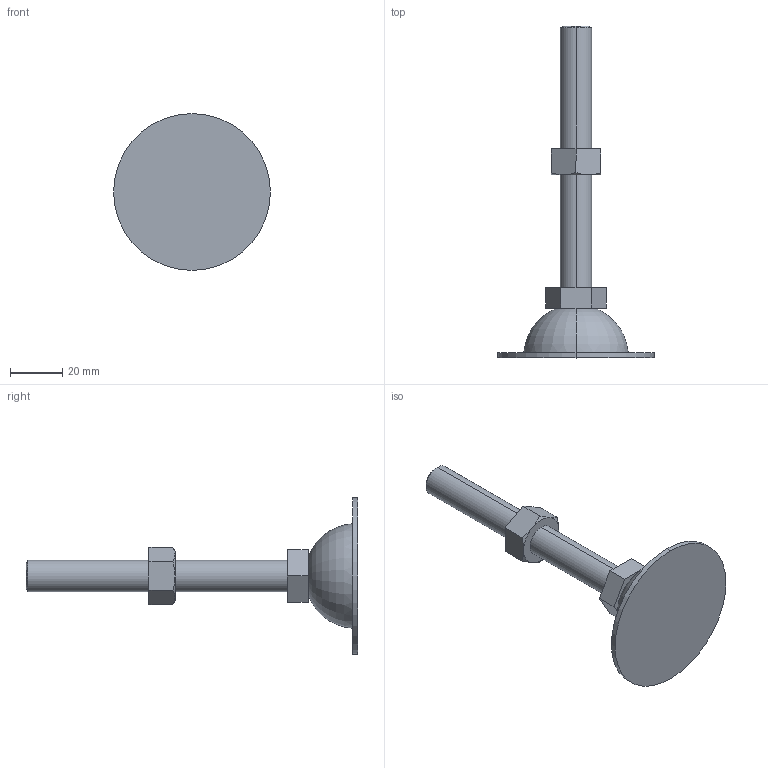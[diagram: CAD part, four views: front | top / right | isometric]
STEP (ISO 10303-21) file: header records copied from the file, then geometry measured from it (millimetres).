
FILE_DESCRIPTION (( 'STEP AP214' ), '1' );
FILE_NAME ('J3LF12.step', '2017-05-24T07:45:59', ( 'admin' ), ( '' ), 'SwSTEP 2.0', 'SolidWorks 2014', '' );
FILE_SCHEMA (( 'AUTOMOTIVE_DESIGN' ));
Length unit declared in the file: millimetre
Products named in the file (3): NT12; J3LF12
Assembly tree (2 placements, depth 2):
  J3LF12
    J3LF12
    NT12
Bounding box: 60 x 127 x 60 mm (x, y, z)
Volume: 36903.6 mm3; surface area: 13184.4 mm2
Topology: 2 solids, 2 shells, 41 faces, 88 edges, 54 vertices
Faces by surface type: plane 19, cone 12, cylinder 8, torus 2
Entity records: 1264 total; most frequent: CARTESIAN_POINT 260, DIRECTION 200, ORIENTED_EDGE 176, EDGE_CURVE 88, AXIS2_PLACEMENT_3D 78, VERTEX_POINT 54, EDGE_LOOP 46, LINE 44
